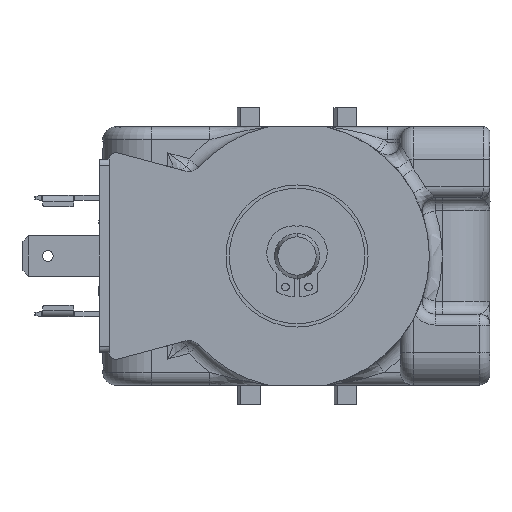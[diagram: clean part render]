
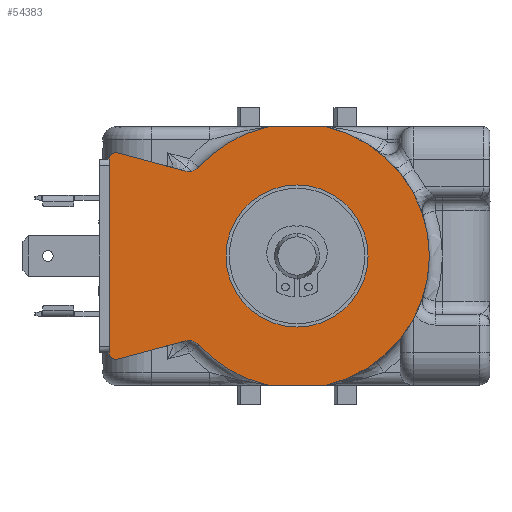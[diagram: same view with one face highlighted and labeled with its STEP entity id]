
A CAD part, front view. The second image highlights one B-rep face of the part: STEP entity #54383.
In plain terms, the highlighted planar face has unit normal (0, -1, 0).
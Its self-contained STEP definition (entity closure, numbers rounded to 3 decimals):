
#2599=DIRECTION('',(1.,0.,0.));
#2600=VECTOR('',#2599,8.772);
#2601=CARTESIAN_POINT('',(-4.272,-1.05,20.));
#2602=LINE('',#2601,#2600);
#4087=DIRECTION('',(1.,0.,0.));
#4088=VECTOR('',#4087,8.772);
#4089=CARTESIAN_POINT('',(-4.272,-1.05,-20.));
#4090=LINE('',#4089,#4088);
#20796=CARTESIAN_POINT('',(0.,-1.05,0.));
#20797=DIRECTION('',(0.,-1.,0.));
#20798=DIRECTION('',(0.,0.,1.));
#20799=AXIS2_PLACEMENT_3D('',#20796,#20797,#20798);
#20804=CARTESIAN_POINT('',(0.,-1.05,0.));
#20805=DIRECTION('',(0.,-1.,0.));
#20806=DIRECTION('',(0.,0.,-1.));
#20807=AXIS2_PLACEMENT_3D('',#20804,#20805,#20806);
#20812=CARTESIAN_POINT('',(-28.107,-1.05,-15.025));
#20813=DIRECTION('',(0.,-1.,0.));
#20814=DIRECTION('',(-1.,0.,0.));
#20815=AXIS2_PLACEMENT_3D('',#20812,#20813,#20814);
#20820=DIRECTION('',(0.,0.,1.));
#20821=VECTOR('',#20820,30.05);
#20822=CARTESIAN_POINT('',(-29.107,-1.05,-15.025));
#20823=LINE('',#20822,#20821);
#20827=CARTESIAN_POINT('',(-28.107,-1.05,15.025));
#20828=DIRECTION('',(0.,-1.,0.));
#20829=DIRECTION('',(0.259,0.,0.966));
#20830=AXIS2_PLACEMENT_3D('',#20827,#20828,#20829);
#20835=DIRECTION('',(0.966,0.,-0.259));
#20836=VECTOR('',#20835,11.002);
#20837=CARTESIAN_POINT('',(-27.848,-1.05,15.991));
#20838=LINE('',#20837,#20836);
#20842=CARTESIAN_POINT('',(0.,-1.05,0.));
#20843=DIRECTION('',(0.,-1.,0.));
#20844=DIRECTION('',(-0.231,0.,0.973));
#20845=AXIS2_PLACEMENT_3D('',#20842,#20843,#20844);
#20850=CARTESIAN_POINT('',(-4.272,-1.05,18.));
#20851=DIRECTION('',(0.,-1.,0.));
#20852=DIRECTION('',(0.,0.,1.));
#20853=AXIS2_PLACEMENT_3D('',#20850,#20851,#20852);
#20858=CARTESIAN_POINT('',(-4.272,-1.05,-18.));
#20859=DIRECTION('',(0.,-1.,0.));
#20860=DIRECTION('',(-0.231,0.,-0.973));
#20861=AXIS2_PLACEMENT_3D('',#20858,#20859,#20860);
#20866=CARTESIAN_POINT('',(0.,-1.05,0.));
#20867=DIRECTION('',(0.,1.,0.));
#20868=DIRECTION('',(-0.231,0.,-0.973));
#20869=AXIS2_PLACEMENT_3D('',#20866,#20867,#20868);
#20874=DIRECTION('',(0.966,0.,0.259));
#20875=VECTOR('',#20874,11.002);
#20876=CARTESIAN_POINT('',(-27.848,-1.05,-15.991));
#20877=LINE('',#20876,#20875);
#20954=CARTESIAN_POINT('',(-16.703,-1.05,-15.075));
#20955=DIRECTION('',(0.,1.,0.));
#20956=DIRECTION('',(-0.259,0.,0.966));
#20957=AXIS2_PLACEMENT_3D('',#20954,#20955,#20956);
#22578=CARTESIAN_POINT('',(0.,-1.05,0.));
#22579=DIRECTION('',(0.,-1.,0.));
#22580=DIRECTION('',(0.22,0.,-0.976));
#22581=AXIS2_PLACEMENT_3D('',#22578,#22579,#22580);
#22718=CARTESIAN_POINT('',(-16.703,-1.05,15.075));
#22719=DIRECTION('',(0.,1.,0.));
#22720=DIRECTION('',(0.742,0.,-0.67));
#22721=AXIS2_PLACEMENT_3D('',#22718,#22719,#22720);
#30871=CARTESIAN_POINT('',(0.,-1.05,11.));
#30872=CARTESIAN_POINT('',(0.,-1.05,-11.));
#30873=VERTEX_POINT('',#30871);
#30874=VERTEX_POINT('',#30872);
#30913=CARTESIAN_POINT('',(4.5,-1.05,-20.));
#30914=CARTESIAN_POINT('',(4.5,-1.05,20.));
#30915=VERTEX_POINT('',#30913);
#30916=VERTEX_POINT('',#30914);
#30923=CARTESIAN_POINT('',(-15.218,-1.05,13.735));
#30924=CARTESIAN_POINT('',(-17.221,-1.05,13.143));
#30925=VERTEX_POINT('',#30923);
#30926=VERTEX_POINT('',#30924);
#30931=CARTESIAN_POINT('',(-17.221,-1.05,-13.143));
#30932=CARTESIAN_POINT('',(-15.218,-1.05,-13.735));
#30933=VERTEX_POINT('',#30931);
#30934=VERTEX_POINT('',#30932);
#30949=CARTESIAN_POINT('',(-4.734,-1.05,-19.946));
#30950=CARTESIAN_POINT('',(-4.272,-1.05,-20.));
#30951=VERTEX_POINT('',#30949);
#30952=VERTEX_POINT('',#30950);
#30953=CARTESIAN_POINT('',(-4.272,-1.05,20.));
#30954=CARTESIAN_POINT('',(-4.734,-1.05,19.946));
#30955=VERTEX_POINT('',#30953);
#30956=VERTEX_POINT('',#30954);
#31042=CARTESIAN_POINT('',(-29.107,-1.05,-15.025));
#31043=CARTESIAN_POINT('',(-27.848,-1.05,-15.991));
#31044=VERTEX_POINT('',#31042);
#31045=VERTEX_POINT('',#31043);
#31058=CARTESIAN_POINT('',(-27.848,-1.05,15.991));
#31059=CARTESIAN_POINT('',(-29.107,-1.05,15.025));
#31060=VERTEX_POINT('',#31058);
#31061=VERTEX_POINT('',#31059);
#54347=CARTESIAN_POINT('',(-30.107,-1.05,-20.));
#54348=DIRECTION('',(0.,-1.,0.));
#54349=DIRECTION('',(1.,0.,0.));
#54350=AXIS2_PLACEMENT_3D('',#54347,#54348,#54349);
#54351=PLANE('',#54350);
#54353=ORIENTED_EDGE('',*,*,#54352,.F.);
#54354=ORIENTED_EDGE('',*,*,#46576,.T.);
#54356=ORIENTED_EDGE('',*,*,#54355,.F.);
#54358=ORIENTED_EDGE('',*,*,#54357,.T.);
#54360=ORIENTED_EDGE('',*,*,#54359,.F.);
#54362=ORIENTED_EDGE('',*,*,#54361,.F.);
#54364=ORIENTED_EDGE('',*,*,#54363,.F.);
#54365=ORIENTED_EDGE('',*,*,#36413,.T.);
#54367=ORIENTED_EDGE('',*,*,#54366,.F.);
#54368=ORIENTED_EDGE('',*,*,#37159,.F.);
#54370=ORIENTED_EDGE('',*,*,#54369,.F.);
#54372=ORIENTED_EDGE('',*,*,#54371,.T.);
#54374=ORIENTED_EDGE('',*,*,#54373,.F.);
#54376=ORIENTED_EDGE('',*,*,#54375,.F.);
#54377=EDGE_LOOP('',(#54353,#54354,#54356,#54358,#54360,#54362,#54364,#54365,
#54367,#54368,#54370,#54372,#54374,#54376));
#54378=FACE_OUTER_BOUND('',#54377,.F.);
#54379=ORIENTED_EDGE('',*,*,#54327,.T.);
#54380=ORIENTED_EDGE('',*,*,#54341,.T.);
#54381=EDGE_LOOP('',(#54379,#54380));
#54382=FACE_BOUND('',#54381,.F.);
#20800=CIRCLE('',#20799,11.);
#20808=CIRCLE('',#20807,11.);
#20816=CIRCLE('',#20815,1.);
#20831=CIRCLE('',#20830,1.);
#20846=CIRCLE('',#20845,20.5);
#20854=CIRCLE('',#20853,2.);
#20862=CIRCLE('',#20861,2.);
#20870=CIRCLE('',#20869,20.5);
#20958=CIRCLE('',#20957,2.);
#22582=CIRCLE('',#22581,20.5);
#22722=CIRCLE('',#22721,2.);
#36413=EDGE_CURVE('',#30955,#30916,#2602,.T.);
#37159=EDGE_CURVE('',#30952,#30915,#4090,.T.);
#46576=EDGE_CURVE('',#31044,#31061,#20823,.T.);
#54327=EDGE_CURVE('',#30873,#30874,#20800,.T.);
#54341=EDGE_CURVE('',#30874,#30873,#20808,.T.);
#54352=EDGE_CURVE('',#31044,#31045,#20816,.T.);
#54355=EDGE_CURVE('',#31060,#31061,#20831,.T.);
#54357=EDGE_CURVE('',#31060,#30926,#20838,.T.);
#54359=EDGE_CURVE('',#30925,#30926,#22722,.T.);
#54361=EDGE_CURVE('',#30956,#30925,#20846,.T.);
#54363=EDGE_CURVE('',#30955,#30956,#20854,.T.);
#54366=EDGE_CURVE('',#30915,#30916,#22582,.T.);
#54369=EDGE_CURVE('',#30951,#30952,#20862,.T.);
#54371=EDGE_CURVE('',#30951,#30934,#20870,.T.);
#54373=EDGE_CURVE('',#30933,#30934,#20958,.T.);
#54375=EDGE_CURVE('',#31045,#30933,#20877,.T.);
#54383=ADVANCED_FACE('',(#54378,#54382),#54351,.T.);
